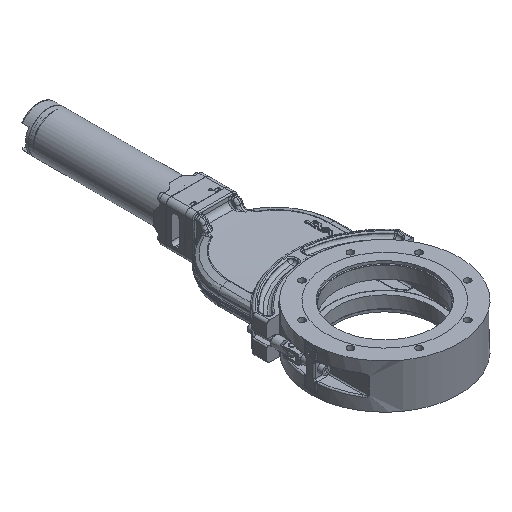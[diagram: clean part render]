
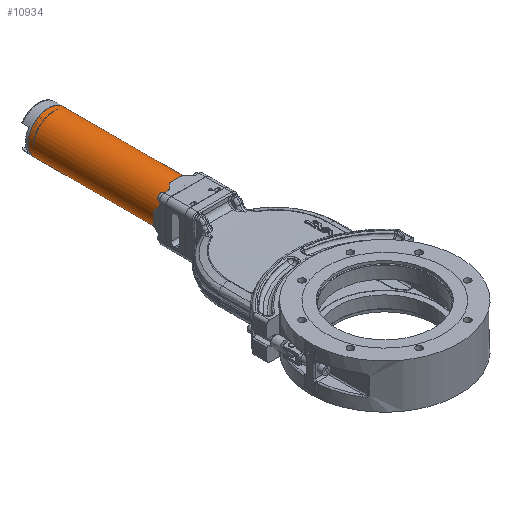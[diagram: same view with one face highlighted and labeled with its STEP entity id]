
A CAD part, isometric view. The second image highlights one B-rep face of the part: STEP entity #10934.
In plain terms, the highlighted free-form (B-spline) face has degree [2, 1] with [7, 2] control points.
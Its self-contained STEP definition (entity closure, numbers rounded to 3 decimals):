
#10859=CARTESIAN_POINT('V7',(32.5,220.5,
   0.0));
#10860=VERTEX_POINT('V7',#10859);
#10861=CARTESIAN_POINT('E21',(32.5,220.5,
   0.0));
#10862=CARTESIAN_POINT('E21',(32.5,220.5,
   56.292));
#10863=CARTESIAN_POINT('E21',(-16.25,
   220.5,28.146));
#10864=CARTESIAN_POINT('E21',(-65.,
   220.5,0.));
#10865=CARTESIAN_POINT('E21',(-16.25,
   220.5,-28.146));
#10866=CARTESIAN_POINT('E21',(32.5,220.5,
   -56.292));
#10867=CARTESIAN_POINT('E21',(32.5,220.5,
   0.0));
#10875=(BOUNDED_CURVE()B_SPLINE_CURVE(2,(#10861,#10862,#10863,
   #10864,#10865,#10866,#10867),.CIRCULAR_ARC.,.T.,.U.)
   B_SPLINE_CURVE_WITH_KNOTS((3,2,2,3),(0.0,0.333,
   0.667,1.0),.UNSPECIFIED.)CURVE()
   GEOMETRIC_REPRESENTATION_ITEM()RATIONAL_B_SPLINE_CURVE((1.0,
   0.5,1.0,0.5,1.0,0.5,1.0)
   )REPRESENTATION_ITEM('E21'));
#10876=EDGE_CURVE('E21',#10860,#10860,#10875,.T.);
#10884=CARTESIAN_POINT('F7',(32.5,7.14,
   0.0));
#10885=CARTESIAN_POINT('F7',(32.5,7.14,
   -56.292));
#10886=CARTESIAN_POINT('F7',(-16.25,7.14,
   -28.146));
#10887=CARTESIAN_POINT('F7',(-65.,7.14,
   0.));
#10888=CARTESIAN_POINT('F7',(-16.25,7.14,
   28.146));
#10889=CARTESIAN_POINT('F7',(32.5,7.14,
   56.292));
#10890=CARTESIAN_POINT('F7',(32.5,7.14,
   0.0));
#10891=CARTESIAN_POINT('F7',(32.5,220.5,
   0.0));
#10892=CARTESIAN_POINT('F7',(32.5,220.5,
   -56.292));
#10893=CARTESIAN_POINT('F7',(-16.25,220.5,
   -28.146));
#10894=CARTESIAN_POINT('F7',(-65.,220.5,
   0.));
#10895=CARTESIAN_POINT('F7',(-16.25,220.5,
   28.146));
#10896=CARTESIAN_POINT('F7',(32.5,220.5,
   56.292));
#10897=CARTESIAN_POINT('F7',(32.5,220.5,
   0.0));
#10905=(BOUNDED_SURFACE()B_SPLINE_SURFACE(2,1,((#10884,#10891),(
   #10885,#10892),(#10886,#10893),(#10887,#10894),(#10888,
   #10895),(#10889,#10896),(#10890,#10897)),.CYLINDRICAL_SURF.,
   .T.,.F.,.U.)B_SPLINE_SURFACE_WITH_KNOTS((3,2,2,3),(2,2),(0.0,
   0.528,1.055,1.583),(0.0,1.0),
   .UNSPECIFIED.)GEOMETRIC_REPRESENTATION_ITEM()
   RATIONAL_B_SPLINE_SURFACE(((1.0,1.0),(0.5,
   0.5),(1.0,1.0),(0.5,
   0.5),(1.0,1.0),(0.5,
   0.5),(1.0,1.0)))REPRESENTATION_ITEM('F7')SURFACE()
   );
#10906=CARTESIAN_POINT('V8',(32.5,7.14,
   0.0));
#10907=VERTEX_POINT('V8',#10906);
#10908=CARTESIAN_POINT('E8',(32.5,220.5,
   0.0));
#10909=CARTESIAN_POINT('E8',(32.5,7.14,
   0.0));
#10910=QUASI_UNIFORM_CURVE('E8',1,(#10908,#10909),.POLYLINE_FORM.,
   .F.,.U.);
#10911=EDGE_CURVE('E8',#10860,#10907,#10910,.T.);
#10912=ORIENTED_EDGE('E8',*,*,#10911,.F.);
#10913=ORIENTED_EDGE('F6',*,*,#10876,.F.);
#10914=ORIENTED_EDGE('E8',*,*,#10911,.T.);
#10915=CARTESIAN_POINT('E22',(32.5,7.14,
   0.0));
#10916=CARTESIAN_POINT('E22',(32.5,7.14,
   -56.292));
#10917=CARTESIAN_POINT('E22',(-16.25,7.14,
   -28.146));
#10918=CARTESIAN_POINT('E22',(-65.,7.14,
   0.));
#10919=CARTESIAN_POINT('E22',(-16.25,7.14,
   28.146));
#10920=CARTESIAN_POINT('E22',(32.5,7.14,
   56.292));
#10921=CARTESIAN_POINT('E22',(32.5,7.14,
   0.0));
#10929=(BOUNDED_CURVE()B_SPLINE_CURVE(2,(#10915,#10916,#10917,
   #10918,#10919,#10920,#10921),.CIRCULAR_ARC.,.T.,.U.)
   B_SPLINE_CURVE_WITH_KNOTS((3,2,2,3),(0.0,0.528,
   1.055,1.583),.UNSPECIFIED.)CURVE()
   GEOMETRIC_REPRESENTATION_ITEM()RATIONAL_B_SPLINE_CURVE((1.0,
   0.5,1.0,0.5,1.0,0.5,1.0)
   )REPRESENTATION_ITEM('E22'));
#10930=EDGE_CURVE('E22',#10907,#10907,#10929,.T.);
#10931=ORIENTED_EDGE('E22',*,*,#10930,.F.);
#10932=EDGE_LOOP('F7',(#10912,#10913,#10914,#10931));
#10933=FACE_OUTER_BOUND('F7',#10932,.F.);
#10934=ADVANCED_FACE('F7',(#10933),#10905,.T.);
